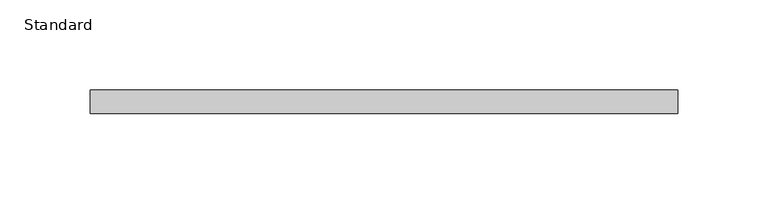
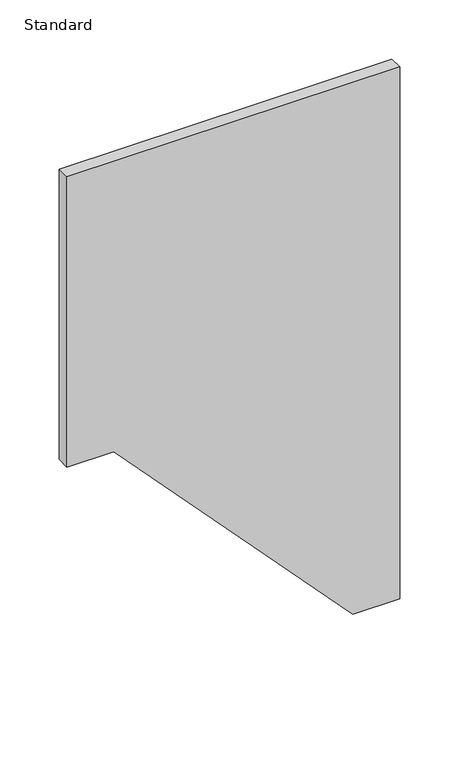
"""IFC4 building model written with IfcOpenShell, lengths in millimetres: furniture geometry, X_Partition-Compact Laminate-Duracube-Vanity End Panel : Standard."""

from ifc_helpers import new_model, si_unit, frame, origin, place, context, project, spatial, polyline, outline, extrude, source, transform, mapped, element, save


def standard_19a560d1(model_context):
    return source(origin(), model_context, "Body", "SweptSolid", [
        extrude(outline(polyline([(537.0, -118.0496736), (537.0, -72.0496736), (287.0, 161.4503264), (287.0, 207.4503264), (837.0, 207.4503264), (837.0, -118.0496736), (537.0, -118.0496736)])), frame((0.0, -13.0, 0.0), z_axis=(0.0, 1.0, 0.0), x_axis=(0.0, 0.0, 1.0)), (0.0, 0.0, 1.0), 13.0),
    ])


if __name__ == "__main__":
    model = new_model("IFC4")
    model_context = context("Model", 3, world=origin())
    ifc_project = project(units=[si_unit("LENGTHUNIT", "METRE", prefix="MILLI")], contexts=[model_context])
    site = spatial("IfcSite", under=ifc_project)
    building = spatial("IfcBuilding", under=site)
    placement = place(None, origin())
    standard_shape = standard_19a560d1(model_context)
    element("IfcFurniture", 1, ObjectType="X_Partition-Compact Laminate-Duracube-Vanity End Panel : Standard", at=placement, inside=building, context=model_context, shape_type="MappedRepresentation", body=[
        mapped(standard_shape, transform((0.0, 0.0, 0.0), x_axis=(1.0, 0.0, 0.0), y_axis=(0.0, 1.0, 0.0), z_axis=(0.0, 0.0, 1.0))),
    ])
    save(model, "model.ifc")
